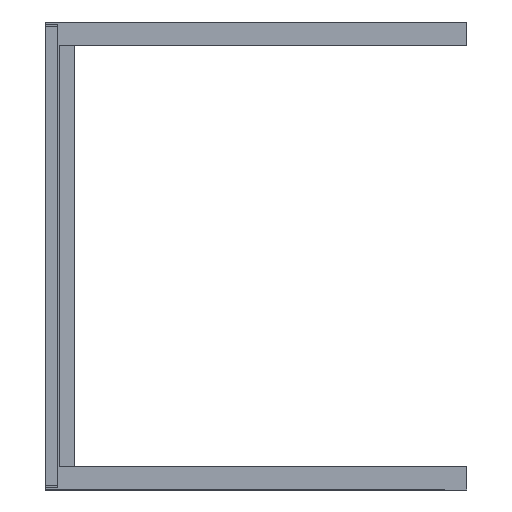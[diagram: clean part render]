
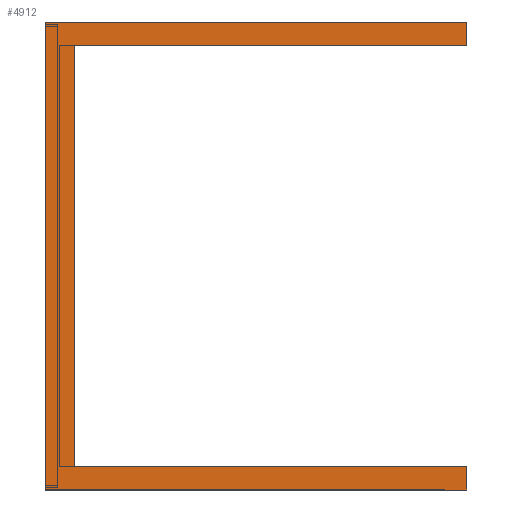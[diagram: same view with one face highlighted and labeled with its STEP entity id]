
A CAD part, left-side view. The second image highlights one B-rep face of the part: STEP entity #4912.
In plain terms, the highlighted planar face has unit normal (-1, 0, 0).
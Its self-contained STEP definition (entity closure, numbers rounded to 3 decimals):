
#404=FACE_OUTER_BOUND('',#622,.T.);
#622=EDGE_LOOP('',(#4435,#4436,#4437,#4438,#4439,#4440,#4441,#4442));
#1272=LINE('',#7508,#1960);
#1286=LINE('',#7535,#1974);
#1291=LINE('',#7545,#1979);
#1293=LINE('',#7549,#1981);
#1300=LINE('',#7563,#1988);
#1303=LINE('',#7570,#1991);
#1304=LINE('',#7571,#1992);
#1305=LINE('',#7572,#1993);
#1960=VECTOR('',#6187,10.);
#1974=VECTOR('',#6211,10.);
#1979=VECTOR('',#6220,10.);
#1981=VECTOR('',#6224,10.);
#1988=VECTOR('',#6237,10.);
#1991=VECTOR('',#6244,10.);
#1992=VECTOR('',#6245,10.);
#1993=VECTOR('',#6246,10.);
#2401=VERTEX_POINT('',#7505);
#2402=VERTEX_POINT('',#7507);
#2407=VERTEX_POINT('',#7528);
#2410=VERTEX_POINT('',#7533);
#2413=VERTEX_POINT('',#7543);
#2414=VERTEX_POINT('',#7547);
#2419=VERTEX_POINT('',#7568);
#2420=VERTEX_POINT('',#7569);
#3068=EDGE_CURVE('',#2402,#2401,#1272,.T.);
#3082=EDGE_CURVE('',#2410,#2407,#1286,.T.);
#3087=EDGE_CURVE('',#2413,#2402,#1291,.T.);
#3089=EDGE_CURVE('',#2413,#2414,#1293,.T.);
#3096=EDGE_CURVE('',#2414,#2410,#1300,.T.);
#3099=EDGE_CURVE('',#2419,#2420,#1303,.T.);
#3100=EDGE_CURVE('',#2420,#2407,#1304,.T.);
#3101=EDGE_CURVE('',#2419,#2401,#1305,.T.);
#4435=ORIENTED_EDGE('',*,*,#3099,.T.);
#4436=ORIENTED_EDGE('',*,*,#3100,.T.);
#4437=ORIENTED_EDGE('',*,*,#3082,.F.);
#4438=ORIENTED_EDGE('',*,*,#3096,.F.);
#4439=ORIENTED_EDGE('',*,*,#3089,.F.);
#4440=ORIENTED_EDGE('',*,*,#3087,.T.);
#4441=ORIENTED_EDGE('',*,*,#3068,.T.);
#4442=ORIENTED_EDGE('',*,*,#3101,.F.);
#4697=PLANE('',#5147);
#4912=ADVANCED_FACE('',(#404),#4697,.T.);
#5147=AXIS2_PLACEMENT_3D('',#7567,#6242,#6243);
#6187=DIRECTION('',(0.,0.,1.));
#6211=DIRECTION('',(0.,0.,1.));
#6220=DIRECTION('',(0.,1.,0.));
#6224=DIRECTION('',(0.,0.,-1.));
#6237=DIRECTION('',(0.,1.,0.));
#6242=DIRECTION('center_axis',(-1.,0.,0.));
#6243=DIRECTION('ref_axis',(0.,0.,1.));
#6244=DIRECTION('',(0.,0.,1.));
#6245=DIRECTION('',(0.,1.,0.));
#6246=DIRECTION('',(0.,1.,0.));
#7505=CARTESIAN_POINT('',(-1100.,670.,360.));
#7507=CARTESIAN_POINT('',(-1100.,670.,-360.));
#7508=CARTESIAN_POINT('',(-1100.,670.,-400.));
#7528=CARTESIAN_POINT('',(-1100.,720.,400.));
#7533=CARTESIAN_POINT('',(-1100.,720.,-400.));
#7535=CARTESIAN_POINT('',(-1100.,720.,-400.));
#7543=CARTESIAN_POINT('',(-1100.,0.,-360.));
#7545=CARTESIAN_POINT('',(-1100.,0.,-360.));
#7547=CARTESIAN_POINT('',(-1100.,0.,-400.));
#7549=CARTESIAN_POINT('',(-1100.,0.,-360.));
#7563=CARTESIAN_POINT('',(-1100.,0.,-400.));
#7567=CARTESIAN_POINT('Origin',(-1100.,0.,360.));
#7568=CARTESIAN_POINT('',(-1100.,0.,360.));
#7569=CARTESIAN_POINT('',(-1100.,0.,400.));
#7570=CARTESIAN_POINT('',(-1100.,0.,360.));
#7571=CARTESIAN_POINT('',(-1100.,0.,400.));
#7572=CARTESIAN_POINT('',(-1100.,0.,360.));
